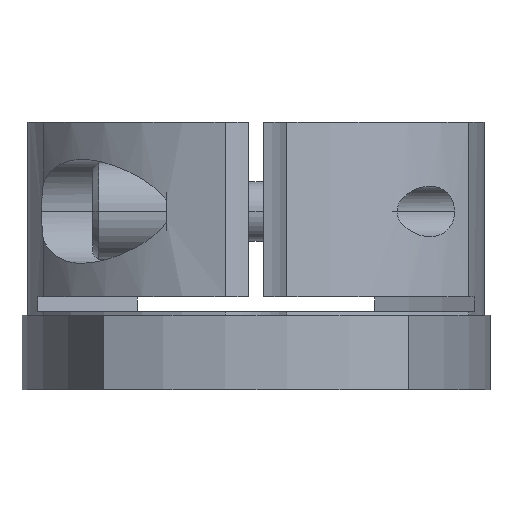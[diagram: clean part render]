
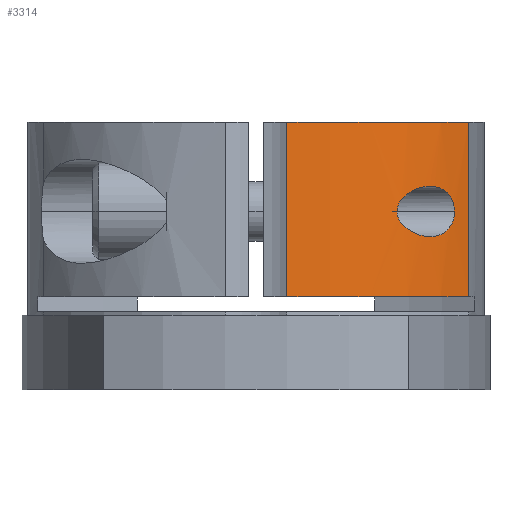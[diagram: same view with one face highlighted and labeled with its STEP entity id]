
A CAD part, front view. The second image highlights one B-rep face of the part: STEP entity #3314.
In plain terms, the highlighted cylindrical face has radius 35 mm (diameter 70 mm), a partial arc.
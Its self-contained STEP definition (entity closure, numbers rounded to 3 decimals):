
#649=CARTESIAN_POINT('',(26.725,-22.6,19.0));
#650=VERTEX_POINT('',#649);
#659=CARTESIAN_POINT('',(18.991,-29.4,19.0));
#660=VERTEX_POINT('',#659);
#661=CARTESIAN_POINT('',(18.991,-29.4,19.0));
#662=CARTESIAN_POINT('',(18.991,-29.4,19.218));
#663=CARTESIAN_POINT('',(19.023,-29.379,19.433));
#664=CARTESIAN_POINT('',(19.145,-29.3,19.846));
#665=CARTESIAN_POINT('',(19.234,-29.242,20.044));
#666=CARTESIAN_POINT('',(19.45,-29.099,20.414));
#667=CARTESIAN_POINT('',(19.577,-29.013,20.586));
#668=CARTESIAN_POINT('',(19.852,-28.826,20.9));
#669=CARTESIAN_POINT('',(19.999,-28.724,21.041));
#670=CARTESIAN_POINT('',(20.619,-28.288,21.569));
#671=CARTESIAN_POINT('',(21.18,-27.873,21.881));
#672=CARTESIAN_POINT('',(22.038,-27.193,22.194));
#673=CARTESIAN_POINT('',(22.327,-26.956,22.272));
#674=CARTESIAN_POINT('',(22.892,-26.478,22.375));
#675=CARTESIAN_POINT('',(23.169,-26.236,22.4));
#676=CARTESIAN_POINT('',(23.66,-25.793,22.4));
#677=CARTESIAN_POINT('',(23.896,-25.575,22.381));
#678=CARTESIAN_POINT('',(24.365,-25.129,22.294));
#679=CARTESIAN_POINT('',(24.598,-24.901,22.227));
#680=CARTESIAN_POINT('',(25.043,-24.453,22.038));
#681=CARTESIAN_POINT('',(25.255,-24.233,21.916));
#682=CARTESIAN_POINT('',(25.647,-23.818,21.62));
#683=CARTESIAN_POINT('',(25.827,-23.622,21.445));
#684=CARTESIAN_POINT('',(26.092,-23.329,21.111));
#685=CARTESIAN_POINT('',(26.194,-23.214,20.958));
#686=CARTESIAN_POINT('',(26.378,-23.005,20.621));
#687=CARTESIAN_POINT('',(26.459,-22.911,20.437));
#688=CARTESIAN_POINT('',(26.591,-22.758,20.047));
#689=CARTESIAN_POINT('',(26.642,-22.699,19.841));
#690=CARTESIAN_POINT('',(26.709,-22.62,19.422));
#691=CARTESIAN_POINT('',(26.725,-22.6,19.209));
#692=CARTESIAN_POINT('',(26.725,-22.6,19.0));
#693=B_SPLINE_CURVE_WITH_KNOTS('',3,(#661,#662,#663,#664,#665,#666,#667,#668,#669,#670,#671,#672,#673,#674,#675,#676,#677,#678,#679,#680,#681,#682,#683,#684,#685,#686,#687,#688,#689,#690,#691,#692),.UNSPECIFIED.,.F.,.U.,(4,2,2,2,2,2,2,2,2,2,2,2,2,2,2,4),(13.052,13.706,14.359,15.013,15.666,17.783,18.842,19.9,20.826,21.751,22.677,23.603,24.228,24.854,25.479,26.105),.UNSPECIFIED.);
#694=EDGE_CURVE('',#660,#650,#693,.T.);
#2430=CARTESIAN_POINT('',(26.725,-22.6,19.0));
#2431=CARTESIAN_POINT('',(26.725,-22.6,18.791));
#2432=CARTESIAN_POINT('',(26.709,-22.62,18.578));
#2433=CARTESIAN_POINT('',(26.642,-22.699,18.159));
#2434=CARTESIAN_POINT('',(26.591,-22.758,17.953));
#2435=CARTESIAN_POINT('',(26.459,-22.911,17.563));
#2436=CARTESIAN_POINT('',(26.378,-23.005,17.379));
#2437=CARTESIAN_POINT('',(26.194,-23.214,17.042));
#2438=CARTESIAN_POINT('',(26.092,-23.329,16.889));
#2439=CARTESIAN_POINT('',(25.827,-23.622,16.555));
#2440=CARTESIAN_POINT('',(25.647,-23.818,16.38));
#2441=CARTESIAN_POINT('',(25.255,-24.233,16.084));
#2442=CARTESIAN_POINT('',(25.043,-24.453,15.962));
#2443=CARTESIAN_POINT('',(24.598,-24.901,15.773));
#2444=CARTESIAN_POINT('',(24.365,-25.129,15.706));
#2445=CARTESIAN_POINT('',(23.896,-25.575,15.619));
#2446=CARTESIAN_POINT('',(23.66,-25.793,15.6));
#2447=CARTESIAN_POINT('',(23.169,-26.236,15.6));
#2448=CARTESIAN_POINT('',(22.892,-26.478,15.625));
#2449=CARTESIAN_POINT('',(22.327,-26.956,15.728));
#2450=CARTESIAN_POINT('',(22.038,-27.193,15.806));
#2451=CARTESIAN_POINT('',(21.18,-27.873,16.119));
#2452=CARTESIAN_POINT('',(20.619,-28.288,16.431));
#2453=CARTESIAN_POINT('',(19.999,-28.724,16.959));
#2454=CARTESIAN_POINT('',(19.852,-28.826,17.1));
#2455=CARTESIAN_POINT('',(19.577,-29.013,17.414));
#2456=CARTESIAN_POINT('',(19.45,-29.099,17.586));
#2457=CARTESIAN_POINT('',(19.234,-29.242,17.956));
#2458=CARTESIAN_POINT('',(19.145,-29.3,18.154));
#2459=CARTESIAN_POINT('',(19.023,-29.379,18.567));
#2460=CARTESIAN_POINT('',(18.991,-29.4,18.782));
#2461=CARTESIAN_POINT('',(18.991,-29.4,19.0));
#2462=B_SPLINE_CURVE_WITH_KNOTS('',3,(#2430,#2431,#2432,#2433,#2434,#2435,#2436,#2437,#2438,#2439,#2440,#2441,#2442,#2443,#2444,#2445,#2446,#2447,#2448,#2449,#2450,#2451,#2452,#2453,#2454,#2455,#2456,#2457,#2458,#2459,#2460,#2461),.UNSPECIFIED.,.F.,.U.,(4,2,2,2,2,2,2,2,2,2,2,2,2,2,2,4),(0.0,0.626,1.251,1.877,2.502,3.428,4.353,5.279,6.204,7.263,8.321,10.438,11.092,11.745,12.399,13.052),.UNSPECIFIED.);
#2463=EDGE_CURVE('',#650,#660,#2462,.T.);
#2942=CARTESIAN_POINT('',(4.15,-34.753,7.5));
#2943=VERTEX_POINT('',#2942);
#2951=CARTESIAN_POINT('',(4.15,-34.753,31.0));
#2952=VERTEX_POINT('',#2951);
#2953=CARTESIAN_POINT('',(4.15,-34.753,31.0));
#2954=DIRECTION('',(0.0,0.0,-1.0));
#2955=VECTOR('',#2954,23.5);
#2956=LINE('',#2953,#2955);
#2957=EDGE_CURVE('',#2952,#2943,#2956,.T.);
#3093=CARTESIAN_POINT('',(28.638,-20.121,31.0));
#3094=VERTEX_POINT('',#3093);
#3095=CARTESIAN_POINT('',(0.,0.,31.0));
#3096=DIRECTION('',(0.0,0.0,-1.0));
#3097=DIRECTION('',(1.0,0.0,0.0));
#3098=AXIS2_PLACEMENT_3D('',#3095,#3096,#3097);
#3099=CIRCLE('',#3098,35.);
#3100=EDGE_CURVE('',#3094,#2952,#3099,.T.);
#3224=CARTESIAN_POINT('',(28.638,-20.121,7.5));
#3225=VERTEX_POINT('',#3224);
#3233=CARTESIAN_POINT('',(0.,0.,7.5));
#3234=DIRECTION('',(0.0,0.0,1.0));
#3235=DIRECTION('',(1.0,0.0,0.0));
#3236=AXIS2_PLACEMENT_3D('',#3233,#3234,#3235);
#3237=CIRCLE('',#3236,35.);
#3238=EDGE_CURVE('',#2943,#3225,#3237,.T.);
#3294=CARTESIAN_POINT('',(0.,0.,-5.0));
#3295=DIRECTION('',(0.0,0.0,1.0));
#3296=DIRECTION('',(1.0,0.0,0.0));
#3297=AXIS2_PLACEMENT_3D('',#3294,#3295,#3296);
#3298=CYLINDRICAL_SURFACE('',#3297,35.);
#3299=ORIENTED_EDGE('',*,*,#3238,.T.);
#3300=CARTESIAN_POINT('',(28.638,-20.121,7.5));
#3301=DIRECTION('',(0.0,0.0,1.0));
#3302=VECTOR('',#3301,23.5);
#3303=LINE('',#3300,#3302);
#3304=EDGE_CURVE('',#3225,#3094,#3303,.T.);
#3305=ORIENTED_EDGE('',*,*,#3304,.T.);
#3306=ORIENTED_EDGE('',*,*,#3100,.T.);
#3307=ORIENTED_EDGE('',*,*,#2957,.T.);
#3308=EDGE_LOOP('',(#3299,#3305,#3306,#3307));
#3309=FACE_OUTER_BOUND('',#3308,.T.);
#3310=ORIENTED_EDGE('',*,*,#2463,.T.);
#3311=ORIENTED_EDGE('',*,*,#694,.T.);
#3312=EDGE_LOOP('',(#3310,#3311));
#3313=FACE_BOUND('',#3312,.T.);
#3314=ADVANCED_FACE('',(#3309,#3313),#3298,.T.);
